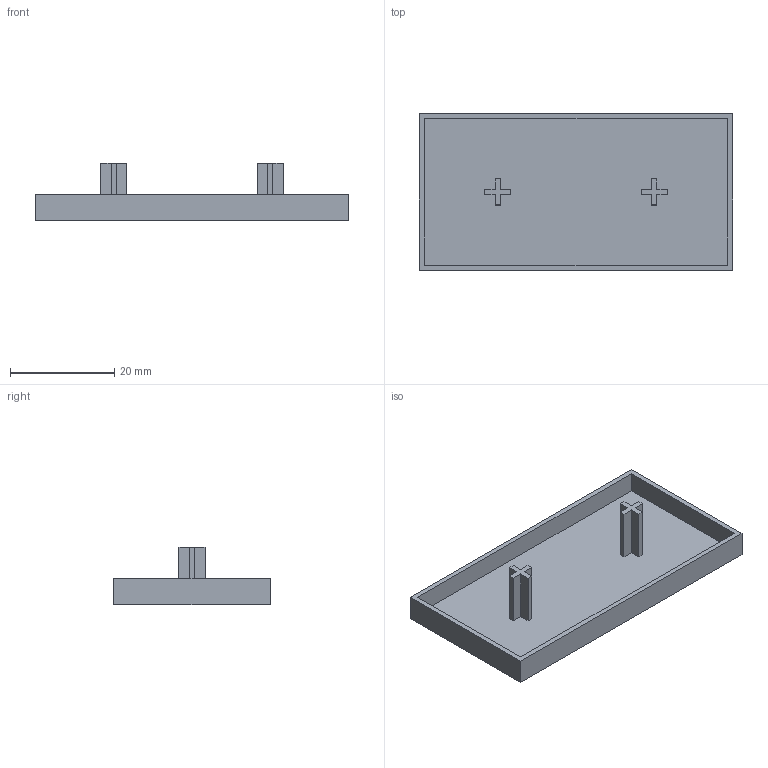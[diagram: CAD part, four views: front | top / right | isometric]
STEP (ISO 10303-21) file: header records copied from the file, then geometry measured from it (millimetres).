
FILE_DESCRIPTION (( 'STEP AP203' ), '1' );
FILE_NAME ('175-CE-CP-3060G.STEP', '2015-07-09T09:15:23', ( '' ), ( '' ), 'SwSTEP 2.0', 'SolidWorks 2013', '' );
FILE_SCHEMA (( 'CONFIG_CONTROL_DESIGN' ));
Length unit declared in the file: millimetre
Products named in the file (1): 175-CE-CP-3060G
Bounding box: 60 x 30 x 11 mm (x, y, z)
Volume: 2684 mm3; surface area: 5588 mm2
Topology: 1 solids, 1 shells, 37 faces, 96 edges, 64 vertices
Faces by surface type: plane 37
Entity records: 1187 total; most frequent: CARTESIAN_POINT 198, ORIENTED_EDGE 192, DIRECTION 172, VECTOR 96, EDGE_CURVE 96, LINE 96, VERTEX_POINT 64, EDGE_LOOP 40
